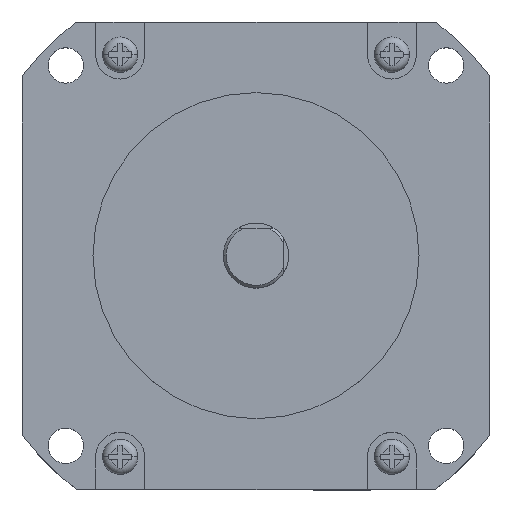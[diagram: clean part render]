
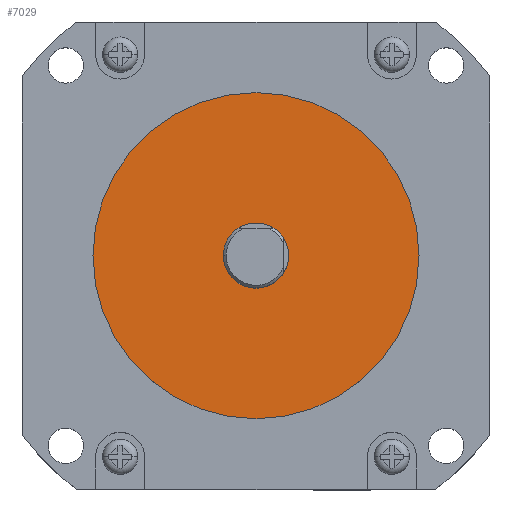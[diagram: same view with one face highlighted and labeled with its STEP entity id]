
A CAD part, top view. The second image highlights one B-rep face of the part: STEP entity #7029.
In plain terms, the highlighted planar face has unit normal (0, 0, 1).
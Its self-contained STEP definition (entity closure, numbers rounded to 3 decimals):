
#89 = EDGE_CURVE ( 'NONE', #6745, #6836, #1401, .T. ) ;
#106 = EDGE_CURVE ( 'NONE', #1843, #1720, #1426, .T. ) ;
#429 = AXIS2_PLACEMENT_3D ( 'NONE', #1672, #1664, #1663 ) ;
#640 = AXIS2_PLACEMENT_3D ( 'NONE', #3190, #3192, #3193 ) ;
#644 = CARTESIAN_POINT ( 'NONE',  ( 6., 0., 6.25 ) ) ;
#647 = AXIS2_PLACEMENT_3D ( 'NONE', #3187, #3194, #3195 ) ;
#717 = CARTESIAN_POINT ( 'NONE',  ( -6., 0., 6.25 ) ) ;
#1401 = CIRCLE ( 'NONE', #6170, 30. ) ;
#1426 = CIRCLE ( 'NONE', #429, 6. ) ;
#1663 = DIRECTION ( 'NONE',  ( 1., 0., 0. ) ) ;
#1664 = DIRECTION ( 'NONE',  ( 0., 0., 1. ) ) ;
#1672 = CARTESIAN_POINT ( 'NONE',  ( 0., 0., 6.25 ) ) ;
#1720 = VERTEX_POINT ( 'NONE', #717 ) ;
#1736 = DIRECTION ( 'NONE',  ( 1., 0., 0. ) ) ;
#1738 = DIRECTION ( 'NONE',  ( 0., 0., 1. ) ) ;
#1740 = CARTESIAN_POINT ( 'NONE',  ( 0., 0., 6.25 ) ) ;
#1843 = VERTEX_POINT ( 'NONE', #644 ) ;
#2113 = ORIENTED_EDGE ( 'NONE', *, *, #6102, .T. ) ;
#2114 = ORIENTED_EDGE ( 'NONE', *, *, #89, .T. ) ;
#2115 = ORIENTED_EDGE ( 'NONE', *, *, #6101, .F. ) ;
#2116 = ORIENTED_EDGE ( 'NONE', *, *, #106, .F. ) ;
#3187 = CARTESIAN_POINT ( 'NONE',  ( 0., 0., 6.25 ) ) ;
#3190 = CARTESIAN_POINT ( 'NONE',  ( 0., 0., 6.25 ) ) ;
#3192 = DIRECTION ( 'NONE',  ( 0., 0., 1. ) ) ;
#3193 = DIRECTION ( 'NONE',  ( 1., 0., 0. ) ) ;
#3194 = DIRECTION ( 'NONE',  ( 0., 0., 1. ) ) ;
#3195 = DIRECTION ( 'NONE',  ( 1., 0., 0. ) ) ;
#3361 = CARTESIAN_POINT ( 'NONE',  ( 30., 0., 6.25 ) ) ;
#3452 = CARTESIAN_POINT ( 'NONE',  ( -30., 0., 6.25 ) ) ;
#3654 = CARTESIAN_POINT ( 'NONE',  ( 0., 0., 6.25 ) ) ;
#3672 = PLANE ( 'NONE',  #4915 ) ;
#3673 = DIRECTION ( 'NONE',  ( 0., 0., 1. ) ) ;
#3674 = DIRECTION ( 'NONE',  ( 1., 0., 0. ) ) ;
#4767 = EDGE_LOOP ( 'NONE', ( #2115, #2116 ) ) ;
#4777 = EDGE_LOOP ( 'NONE', ( #2113, #2114 ) ) ;
#4915 = AXIS2_PLACEMENT_3D ( 'NONE', #3654, #3673, #3674 ) ;
#5844 = CIRCLE ( 'NONE', #640, 6. ) ;
#5846 = CIRCLE ( 'NONE', #647, 30. ) ;
#5968 = FACE_BOUND ( 'NONE', #4767, .T. ) ;
#5969 = FACE_OUTER_BOUND ( 'NONE', #4777, .T. ) ;
#6101 = EDGE_CURVE ( 'NONE', #1720, #1843, #5844, .T. ) ;
#6102 = EDGE_CURVE ( 'NONE', #6836, #6745, #5846, .T. ) ;
#6170 = AXIS2_PLACEMENT_3D ( 'NONE', #1740, #1738, #1736 ) ;
#6745 = VERTEX_POINT ( 'NONE', #3361 ) ;
#6836 = VERTEX_POINT ( 'NONE', #3452 ) ;
#7029 = ADVANCED_FACE ( 'NONE', ( #5969, #5968 ), #3672, .T. ) ;
